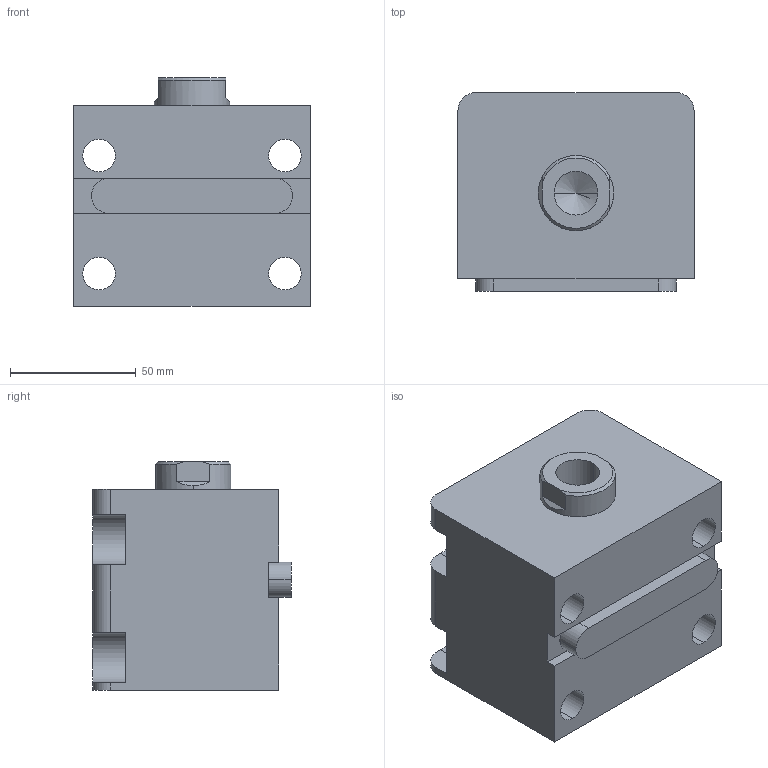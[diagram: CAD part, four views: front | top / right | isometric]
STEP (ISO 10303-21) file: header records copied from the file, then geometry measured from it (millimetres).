
FILE_DESCRIPTION (( 'STEP AP203' ), '1' );
FILE_NAME ('HTB-LA50-20N.STEP', '2019-10-09T07:07:31', ( '微软用户' ), ( '微软中国' ), 'SwSTEP 2.0', 'SolidWorks 2012', '' );
FILE_SCHEMA (( 'CONFIG_CONTROL_DESIGN' ));
Length unit declared in the file: millimetre
Products named in the file (4): HTB-LA50-20掛极; HTB-LA50-瑩; HTB-LA50-20N活塞杆; HTB-LA50-20N
Assembly tree (3 placements, depth 2):
  HTB-LA50-20N
    HTB-LA50-20掛极
    HTB-LA50-20N活塞杆
    HTB-LA50-瑩
Bounding box: 94 x 79 x 91 mm (x, y, z)
Volume: 482456.5 mm3; surface area: 81924.8 mm2
Topology: 3 solids, 3 shells, 86 faces, 213 edges, 139 vertices
Faces by surface type: plane 39, cylinder 35, cone 8, torus 4
Entity records: 3001 total; most frequent: DIRECTION 475, CARTESIAN_POINT 470, ORIENTED_EDGE 422, EDGE_CURVE 211, AXIS2_PLACEMENT_3D 180, VERTEX_POINT 139, LINE 115, VECTOR 115
